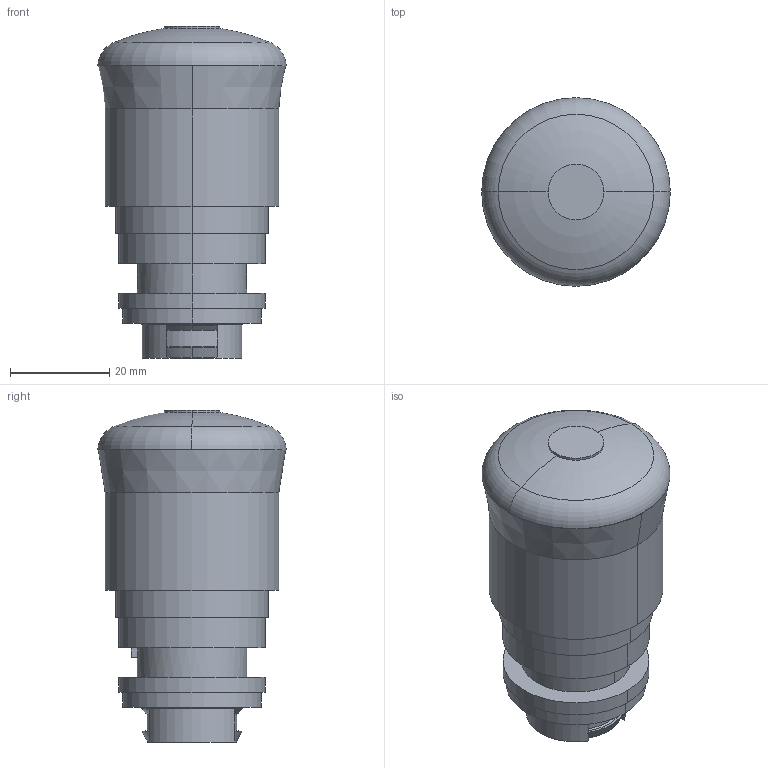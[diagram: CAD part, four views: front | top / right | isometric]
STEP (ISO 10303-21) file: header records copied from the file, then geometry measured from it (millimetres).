
FILE_DESCRIPTION( ( '' ), '1' );
FILE_NAME( '//expscmdclustefs.cadenas.external/client_exchange/iodir/jobs/output/wkb45410017_no0/STEP/271499_2_03.stp', '2012-05-29T19:54:30', ( '' ), ( '' ), ' ', ' ', ' ' );
FILE_SCHEMA( ( 'CONFIG_CONTROL_DESIGN' ) );
Length unit declared in the file: millimetre
Products named in the file (1): 1
Bounding box: 38 x 38 x 66.9 mm (x, y, z)
Volume: 50558.6 mm3; surface area: 8781.3 mm2
Topology: 1 solids, 1 shells, 68 faces, 159 edges, 101 vertices
Faces by surface type: plane 27, cylinder 21, cone 16, torus 4
Entity records: 1996 total; most frequent: DIRECTION 366, CARTESIAN_POINT 353, ORIENTED_EDGE 318, EDGE_CURVE 159, AXIS2_PLACEMENT_3D 150, VERTEX_POINT 101, CIRCLE 77, EDGE_LOOP 76
